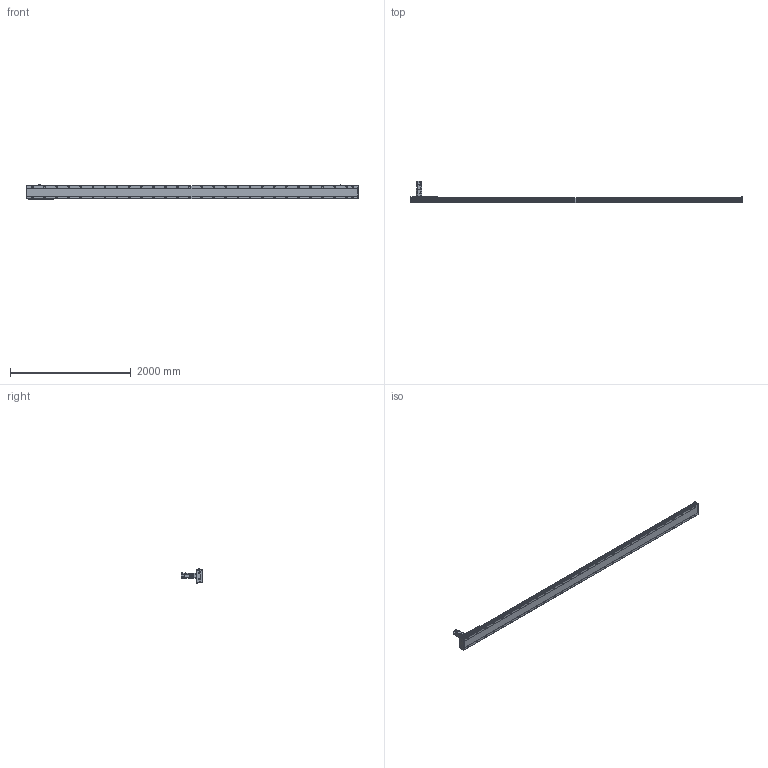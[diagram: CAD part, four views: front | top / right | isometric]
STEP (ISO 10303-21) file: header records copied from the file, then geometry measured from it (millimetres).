
FILE_DESCRIPTION(/* description */ ('STEP AP214'),/* implementation_level */ '2;1');
FILE_NAME(/* name */ 'SHS22A-L13-S5000-BC-T75-C1-N(0)',/* time_stamp */ '2022-06-15T02:29:15+02:00',/* author */ ('License CC BY-ND 4.0'),/* organization */ ('CADENAS'),/* preprocessor_version */ 'ST-DEVELOPER v18.102',/* originating_system */ 'PARTsolutions',/* authorisation */ ' ');
FILE_SCHEMA (('AUTOMOTIVE_DESIGN {1 0 10303 214 3 1 1}'));
Length unit declared in the file: millimetre
Products named in the file (7): SHS22A-L13-S5000-BC-T75-C1-N(0); PSC140-sensor; SHS22A-S5000_body2; T75-p1; SHS22A-S5000_body3; SHS22A-S5000_slider; SHS22A-L13-S5000-BC-T75-C1(0)_body
Assembly tree (13 placements, depth 2):
  SHS22A-L13-S5000-BC-T75-C1-N(0)
    PSC140-sensor  x3
    SHS22A-S5000_body2  x6
    T75-p1
    SHS22A-S5000_body3
    SHS22A-S5000_slider
    SHS22A-L13-S5000-BC-T75-C1(0)_body
Bounding box: 5494 x 350.8 x 238.4 mm (x, y, z)
Volume: 57877763.1 mm3; surface area: 5878240.6 mm2
Topology: 13 solids, 13 shells, 2037 faces, 5199 edges, 3400 vertices
Faces by surface type: plane 1392, cylinder 515, cone 121, torus 9
Full cylindrical faces by diameter (mm): 2.8 x3, 4.2 x2, 4.6 x3, 4.917 x4, 5 x4, 5.6 x24, 6 x31, 6.6 x24, 6.647 x8, 6.8 x9, 7.75 x6, 8 x3, 8.376 x56, 8.5 x56, 10 x4, 11 x4, 12 x24, 14 x56, 22 x1, 24.1 x1, 28 x1, 28.2 x1, 28.8 x1, 48.542 x1, 68 x1, 70 x1, 78 x1, 80 x2
Entity records: 35339 total; most frequent: CARTESIAN_POINT 6461, DIRECTION 5999, ORIENTED_EDGE 5268, EDGE_CURVE 2634, AXIS2_PLACEMENT_3D 2200, FACE_BOUND 1968, EDGE_LOOP 1967, VERTEX_POINT 1934
